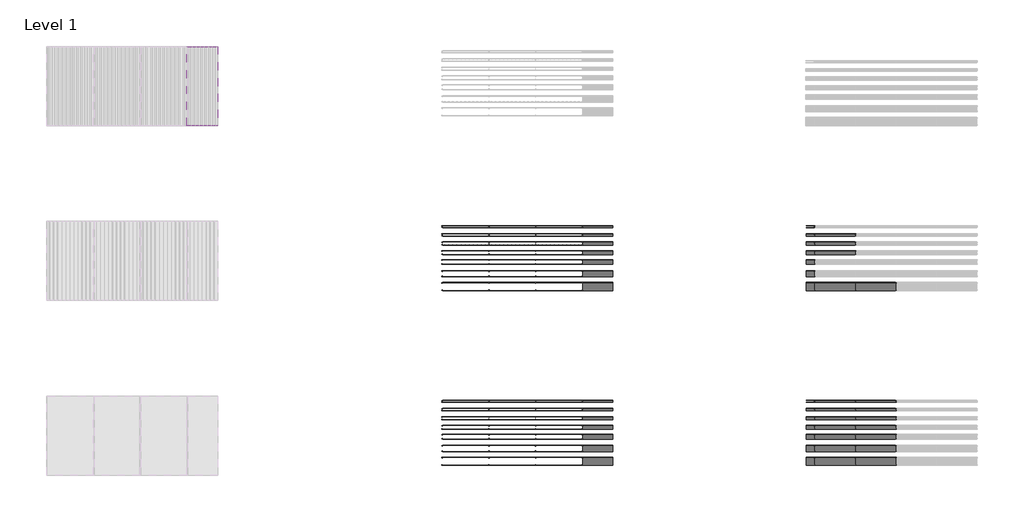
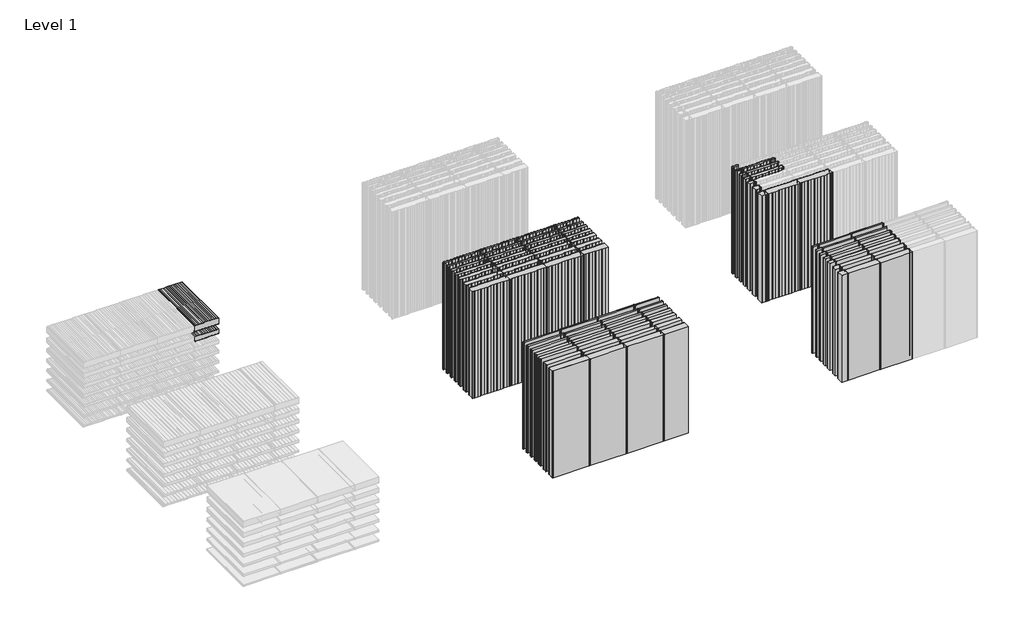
# One storey, part 2 of 4: 91 plates.
"""IFC4 building model written with IfcOpenShell, lengths in millimetres."""

from ifc_helpers import new_model, si_unit, origin, place, context, project, spatial, transform, mapped, element, save
from components import pm1_curtain_panel_standard_profile_565afd56, pm1_curtain_panel_standard_profile_8dcfa809, pm1_curtain_panel_flat_profile_ec2d9a9f, pm1_curtain_panel_flat_profile_6bd34003, pm1_curtain_panel_flat_profile_d00d88be, pm1_curtain_panel_flat_profile_68c07352, pm1_curtain_panel_flat_profile_7617cffb, pm1_curtain_panel_flat_profile_af272a4a, pm1_curtain_panel_flat_profile_9f0cf21e, pm1_curtain_panel_flat_profile_2dd77cdb, pm1_curtain_panel_flat_profile_1df6bcda, pm1_curtain_panel_flat_profile_bbe97bc2, pm1_curtain_panel_flat_profile_77e79c4d, pm1_curtain_panel_flat_profile_9e77dd8b, pm1_curtain_panel_flat_profile_ed04c103, pm1_curtain_panel_flat_profile_f8a9f7f1, pm1_curtain_panel_micro_ribbed_profile_aace55ae, pm1_curtain_panel_micro_ribbed_profile_b0a39715, pm1_curtain_panel_micro_ribbed_profile_3c703dab, pm1_curtain_panel_micro_ribbed_profile_013f0e3a, pm1_curtain_panel_micro_ribbed_profile_b8cf29e3, pm1_curtain_panel_micro_ribbed_profile_9ff300b7, pm1_curtain_panel_micro_ribbed_profile_237f9545, pm1_curtain_panel_micro_ribbed_profile_3a178546, pm1_curtain_panel_micro_ribbed_profile_fbef5924, pm1_curtain_panel_micro_ribbed_profile_521b614f, pm1_curtain_panel_micro_ribbed_profile_49ab79ae, pm1_curtain_panel_micro_ribbed_profile_119ddfce, pm1_curtain_panel_micro_ribbed_profile_efb13df9, pm1_curtain_panel_micro_ribbed_profile_e0073b67, pm1_curtain_panel_micro_ribbed_profile_bbc1dd99, pm1_curtain_panel_micro_ribbed_profile_428cde19, pm1_curtain_panel_micro_ribbed_profile_9ce57156, pm1_curtain_panel_micro_ribbed_profile_27170c41, pm1_curtain_panel_micro_ribbed_profile_c7bb6b2b, pm1_curtain_panel_micro_ribbed_profile_6def71c2, pm1_curtain_panel_micro_ribbed_profile_ae8438e2, pmh_curtain_panel_flat_profile_2aa518ef, pmh_curtain_panel_flat_profile_ee175231, pmh_curtain_panel_flat_profile_bc538edd, pmh_curtain_panel_flat_profile_33157659, pmh_curtain_panel_flat_profile_eaf717ca, pmh_curtain_panel_flat_profile_81161288, pmh_curtain_panel_flat_profile_a8378464, pmh_curtain_panel_flat_profile_6f3a8c2d, pmh_curtain_panel_flat_profile_d1ff0061, pmh_curtain_panel_flat_profile_4aeccdc1, pmh_curtain_panel_flat_profile_b9f61fe7, pmh_curtain_panel_flat_profile_04d264a5, pmh_curtain_panel_flat_profile_7e397283, pmh_curtain_panel_flat_profile_27409d0f, pmh_curtain_panel_micro_ribbed_profile_37a7e260, pmh_curtain_panel_micro_ribbed_profile_525450b6, pmh_curtain_panel_micro_ribbed_profile_d39909f0, pmh_curtain_panel_micro_ribbed_profile_f34e5e84, pmh_curtain_panel_micro_ribbed_profile_1d5e609f, pmh_curtain_panel_micro_ribbed_profile_23aabe01, pmh_curtain_panel_micro_ribbed_profile_e44e9543, pmh_curtain_panel_micro_ribbed_profile_76bfd1a1, pmh_curtain_panel_micro_ribbed_profile_c045a3eb, pmh_curtain_panel_micro_ribbed_profile_85a3d73c, pmh_curtain_panel_micro_ribbed_profile_669abe36

model = new_model("IFC4")

# Units and contexts
model_context = context("Model", 3, world=origin())
ifc_project = project(units=[si_unit("LENGTHUNIT", "METRE", prefix="MILLI")], contexts=[model_context])

# Site, building, storey
site = spatial("IfcSite", under=ifc_project)
building = spatial("IfcBuilding", under=site)
storey = spatial("IfcBuildingStorey", under=building, Name="Level 1", Elevation=0.0)

# Plates
placement = place(None, origin())
pm1_curtain_panel_standard_profile_shape = pm1_curtain_panel_standard_profile_565afd56(model_context)
element("IfcPlate", 1, ObjectType="PM1_Curtain-Panel_ Standard-profile : ACH_PM1_Acoustic-Sectioning-Panel_150M", at=placement, inside=storey, context=model_context, shape_type="MappedRepresentation", body=[
    mapped(pm1_curtain_panel_standard_profile_shape, transform((-17207.9244272, -419.7144508, 1600.0), x_axis=(1.0, 0.0, 0.0), y_axis=(0.0, 0.0, -1.0), z_axis=(0.0, 1.0, 0.0))),
])
pm1_curtain_panel_standard_profile_2_shape = pm1_curtain_panel_standard_profile_8dcfa809(model_context)
element("IfcPlate", 2, ObjectType="PM1_Curtain-Panel_ Standard-profile : ACH_PM1_Acoustic-Sectioning-Panel_200M", at=placement, inside=storey, context=model_context, shape_type="MappedRepresentation", body=[
    mapped(pm1_curtain_panel_standard_profile_2_shape, transform((-17207.9244272, -419.7144508, 1920.0), x_axis=(1.0, 0.0, 0.0), y_axis=(0.0, 0.0, -1.0), z_axis=(0.0, 1.0, 0.0))),
])
pm1_curtain_panel_flat_profile_shape = pm1_curtain_panel_flat_profile_ec2d9a9f(model_context)
element("IfcPlate", 3, ObjectType="PM1_Curtain-Panel_Flat-profile : ACH_PM1_Acoustic-Sectioning-Panel_60M", at=placement, inside=storey, context=model_context, shape_type="MappedRepresentation", body=[
    mapped(pm1_curtain_panel_flat_profile_shape, transform((-10729.4132588, -7379.3131879, 0.0), x_axis=(1.0, 0.0, 0.0), y_axis=(0.0, 1.0, 0.0), z_axis=(0.0, 0.0, 1.0))),
])
element("IfcPlate", 4, ObjectType="PM1_Curtain-Panel_Flat-profile : ACH_PM1_Acoustic-Sectioning-Panel_60M", at=placement, inside=storey, context=model_context, shape_type="MappedRepresentation", body=[
    mapped(pm1_curtain_panel_flat_profile_shape, transform((-9579.4132588, -7379.3131879, 0.0), x_axis=(1.0, 0.0, 0.0), y_axis=(0.0, 1.0, 0.0), z_axis=(0.0, 0.0, 1.0))),
])
element("IfcPlate", 5, ObjectType="PM1_Curtain-Panel_Flat-profile : ACH_PM1_Acoustic-Sectioning-Panel_60M", at=placement, inside=storey, context=model_context, shape_type="MappedRepresentation", body=[
    mapped(pm1_curtain_panel_flat_profile_shape, transform((-8429.4132588, -7379.3131879, 0.0), x_axis=(1.0, 0.0, 0.0), y_axis=(0.0, 1.0, 0.0), z_axis=(0.0, 0.0, 1.0))),
])
pm1_curtain_panel_flat_profile_2_shape = pm1_curtain_panel_flat_profile_6bd34003(model_context)
element("IfcPlate", 6, ObjectType="PM1_Curtain-Panel_Flat-profile : ACH_PM1_Acoustic-Sectioning-Panel_60M", at=placement, inside=storey, context=model_context, shape_type="MappedRepresentation", body=[
    mapped(pm1_curtain_panel_flat_profile_2_shape, transform((-7479.4132588, -7379.3131879, 0.0), x_axis=(1.0, 0.0, 0.0), y_axis=(0.0, 1.0, 0.0), z_axis=(0.0, 0.0, 1.0))),
])
pm1_curtain_panel_flat_profile_3_shape = pm1_curtain_panel_flat_profile_d00d88be(model_context)
element("IfcPlate", 7, ObjectType="PM1_Curtain-Panel_Flat-profile : ACH_PM1_Acoustic-Sectioning-Panel_80M", at=placement, inside=storey, context=model_context, shape_type="MappedRepresentation", body=[
    mapped(pm1_curtain_panel_flat_profile_3_shape, transform((-10729.4132588, -7579.3131879, 0.0), x_axis=(1.0, 0.0, 0.0), y_axis=(0.0, 1.0, 0.0), z_axis=(0.0, 0.0, 1.0))),
])
element("IfcPlate", 8, ObjectType="PM1_Curtain-Panel_Flat-profile : ACH_PM1_Acoustic-Sectioning-Panel_80M", at=placement, inside=storey, context=model_context, shape_type="MappedRepresentation", body=[
    mapped(pm1_curtain_panel_flat_profile_3_shape, transform((-9579.4132588, -7579.3131879, 0.0), x_axis=(1.0, 0.0, 0.0), y_axis=(0.0, 1.0, 0.0), z_axis=(0.0, 0.0, 1.0))),
])
element("IfcPlate", 9, ObjectType="PM1_Curtain-Panel_Flat-profile : ACH_PM1_Acoustic-Sectioning-Panel_80M", at=placement, inside=storey, context=model_context, shape_type="MappedRepresentation", body=[
    mapped(pm1_curtain_panel_flat_profile_3_shape, transform((-8429.4132588, -7579.3131879, 0.0), x_axis=(1.0, 0.0, 0.0), y_axis=(0.0, 1.0, 0.0), z_axis=(0.0, 0.0, 1.0))),
])
pm1_curtain_panel_flat_profile_4_shape = pm1_curtain_panel_flat_profile_68c07352(model_context)
element("IfcPlate", 10, ObjectType="PM1_Curtain-Panel_Flat-profile : ACH_PM1_Acoustic-Sectioning-Panel_80M", at=placement, inside=storey, context=model_context, shape_type="MappedRepresentation", body=[
    mapped(pm1_curtain_panel_flat_profile_4_shape, transform((-7479.4132588, -7579.3131879, 0.0), x_axis=(1.0, 0.0, 0.0), y_axis=(0.0, 1.0, 0.0), z_axis=(0.0, 0.0, 1.0))),
])
pm1_curtain_panel_flat_profile_5_shape = pm1_curtain_panel_flat_profile_7617cffb(model_context)
element("IfcPlate", 11, ObjectType="PM1_Curtain-Panel_Flat-profile : ACH_PM1_Acoustic-Sectioning-Panel_50M", at=placement, inside=storey, context=model_context, shape_type="MappedRepresentation", body=[
    mapped(pm1_curtain_panel_flat_profile_5_shape, transform((-10729.4132588, -7179.3131879, 0.0), x_axis=(1.0, 0.0, 0.0), y_axis=(0.0, 1.0, 0.0), z_axis=(0.0, 0.0, 1.0))),
])
element("IfcPlate", 12, ObjectType="PM1_Curtain-Panel_Flat-profile : ACH_PM1_Acoustic-Sectioning-Panel_50M", at=placement, inside=storey, context=model_context, shape_type="MappedRepresentation", body=[
    mapped(pm1_curtain_panel_flat_profile_5_shape, transform((-9579.4132588, -7179.3131879, 0.0), x_axis=(1.0, 0.0, 0.0), y_axis=(0.0, 1.0, 0.0), z_axis=(0.0, 0.0, 1.0))),
])
element("IfcPlate", 13, ObjectType="PM1_Curtain-Panel_Flat-profile : ACH_PM1_Acoustic-Sectioning-Panel_50M", at=placement, inside=storey, context=model_context, shape_type="MappedRepresentation", body=[
    mapped(pm1_curtain_panel_flat_profile_5_shape, transform((-8429.4132588, -7179.3131879, 0.0), x_axis=(1.0, 0.0, 0.0), y_axis=(0.0, 1.0, 0.0), z_axis=(0.0, 0.0, 1.0))),
])
pm1_curtain_panel_flat_profile_6_shape = pm1_curtain_panel_flat_profile_af272a4a(model_context)
element("IfcPlate", 14, ObjectType="PM1_Curtain-Panel_Flat-profile : ACH_PM1_Acoustic-Sectioning-Panel_50M", at=placement, inside=storey, context=model_context, shape_type="MappedRepresentation", body=[
    mapped(pm1_curtain_panel_flat_profile_6_shape, transform((-7479.4012848, -7179.3131879, 0.0), x_axis=(1.0, 0.0, 0.0), y_axis=(0.0, 1.0, 0.0), z_axis=(0.0, 0.0, 1.0))),
])
pm1_curtain_panel_flat_profile_7_shape = pm1_curtain_panel_flat_profile_9f0cf21e(model_context)
element("IfcPlate", 15, ObjectType="PM1_Curtain-Panel_Flat-profile : ACH_PM1_Acoustic-Sectioning-Panel_100M", at=placement, inside=storey, context=model_context, shape_type="MappedRepresentation", body=[
    mapped(pm1_curtain_panel_flat_profile_7_shape, transform((-10729.4132588, -7795.1131879, 0.0), x_axis=(1.0, 0.0, 0.0), y_axis=(0.0, 1.0, 0.0), z_axis=(0.0, 0.0, 1.0))),
])
element("IfcPlate", 16, ObjectType="PM1_Curtain-Panel_Flat-profile : ACH_PM1_Acoustic-Sectioning-Panel_100M", at=placement, inside=storey, context=model_context, shape_type="MappedRepresentation", body=[
    mapped(pm1_curtain_panel_flat_profile_7_shape, transform((-9579.4132588, -7795.1131879, 0.0), x_axis=(1.0, 0.0, 0.0), y_axis=(0.0, 1.0, 0.0), z_axis=(0.0, 0.0, 1.0))),
])
element("IfcPlate", 17, ObjectType="PM1_Curtain-Panel_Flat-profile : ACH_PM1_Acoustic-Sectioning-Panel_100M", at=placement, inside=storey, context=model_context, shape_type="MappedRepresentation", body=[
    mapped(pm1_curtain_panel_flat_profile_7_shape, transform((-8429.4132588, -7795.1131879, 0.0), x_axis=(1.0, 0.0, 0.0), y_axis=(0.0, 1.0, 0.0), z_axis=(0.0, 0.0, 1.0))),
])
pm1_curtain_panel_flat_profile_8_shape = pm1_curtain_panel_flat_profile_2dd77cdb(model_context)
element("IfcPlate", 18, ObjectType="PM1_Curtain-Panel_Flat-profile : ACH_PM1_Acoustic-Sectioning-Panel_100M", at=placement, inside=storey, context=model_context, shape_type="MappedRepresentation", body=[
    mapped(pm1_curtain_panel_flat_profile_8_shape, transform((-7479.4132588, -7795.1131879, 0.0), x_axis=(1.0, 0.0, 0.0), y_axis=(0.0, 1.0, 0.0), z_axis=(0.0, 0.0, 1.0))),
])
pm1_curtain_panel_flat_profile_9_shape = pm1_curtain_panel_flat_profile_1df6bcda(model_context)
element("IfcPlate", 19, ObjectType="PM1_Curtain-Panel_Flat-profile : ACH_PM1_Acoustic-Sectioning-Panel_120M", at=placement, inside=storey, context=model_context, shape_type="MappedRepresentation", body=[
    mapped(pm1_curtain_panel_flat_profile_9_shape, transform((-10729.4132588, -8015.1131879, 0.0), x_axis=(1.0, 0.0, 0.0), y_axis=(0.0, 1.0, 0.0), z_axis=(0.0, 0.0, 1.0))),
])
element("IfcPlate", 20, ObjectType="PM1_Curtain-Panel_Flat-profile : ACH_PM1_Acoustic-Sectioning-Panel_120M", at=placement, inside=storey, context=model_context, shape_type="MappedRepresentation", body=[
    mapped(pm1_curtain_panel_flat_profile_9_shape, transform((-9579.4132588, -8015.1131879, 0.0), x_axis=(1.0, 0.0, 0.0), y_axis=(0.0, 1.0, 0.0), z_axis=(0.0, 0.0, 1.0))),
])
element("IfcPlate", 21, ObjectType="PM1_Curtain-Panel_Flat-profile : ACH_PM1_Acoustic-Sectioning-Panel_120M", at=placement, inside=storey, context=model_context, shape_type="MappedRepresentation", body=[
    mapped(pm1_curtain_panel_flat_profile_9_shape, transform((-8429.4132588, -8015.1131879, 0.0), x_axis=(1.0, 0.0, 0.0), y_axis=(0.0, 1.0, 0.0), z_axis=(0.0, 0.0, 1.0))),
])
pm1_curtain_panel_flat_profile_10_shape = pm1_curtain_panel_flat_profile_bbe97bc2(model_context)
element("IfcPlate", 22, ObjectType="PM1_Curtain-Panel_Flat-profile : ACH_PM1_Acoustic-Sectioning-Panel_120M", at=placement, inside=storey, context=model_context, shape_type="MappedRepresentation", body=[
    mapped(pm1_curtain_panel_flat_profile_10_shape, transform((-7479.4132588, -8015.1131879, 0.0), x_axis=(1.0, 0.0, 0.0), y_axis=(0.0, 1.0, 0.0), z_axis=(0.0, 0.0, 1.0))),
])
pm1_curtain_panel_flat_profile_11_shape = pm1_curtain_panel_flat_profile_77e79c4d(model_context)
element("IfcPlate", 23, ObjectType="PM1_Curtain-Panel_Flat-profile : ACH_PM1_Acoustic-Sectioning-Panel_150M", at=placement, inside=storey, context=model_context, shape_type="MappedRepresentation", body=[
    mapped(pm1_curtain_panel_flat_profile_11_shape, transform((-10729.4132588, -8290.1131879, 0.0), x_axis=(1.0, 0.0, 0.0), y_axis=(0.0, 1.0, 0.0), z_axis=(0.0, 0.0, 1.0))),
])
element("IfcPlate", 24, ObjectType="PM1_Curtain-Panel_Flat-profile : ACH_PM1_Acoustic-Sectioning-Panel_150M", at=placement, inside=storey, context=model_context, shape_type="MappedRepresentation", body=[
    mapped(pm1_curtain_panel_flat_profile_11_shape, transform((-9579.4132588, -8290.1131879, 0.0), x_axis=(1.0, 0.0, 0.0), y_axis=(0.0, 1.0, 0.0), z_axis=(0.0, 0.0, 1.0))),
])
element("IfcPlate", 25, ObjectType="PM1_Curtain-Panel_Flat-profile : ACH_PM1_Acoustic-Sectioning-Panel_150M", at=placement, inside=storey, context=model_context, shape_type="MappedRepresentation", body=[
    mapped(pm1_curtain_panel_flat_profile_11_shape, transform((-8429.4132588, -8290.1131879, 0.0), x_axis=(1.0, 0.0, 0.0), y_axis=(0.0, 1.0, 0.0), z_axis=(0.0, 0.0, 1.0))),
])
pm1_curtain_panel_flat_profile_12_shape = pm1_curtain_panel_flat_profile_9e77dd8b(model_context)
element("IfcPlate", 26, ObjectType="PM1_Curtain-Panel_Flat-profile : ACH_PM1_Acoustic-Sectioning-Panel_150M", at=placement, inside=storey, context=model_context, shape_type="MappedRepresentation", body=[
    mapped(pm1_curtain_panel_flat_profile_12_shape, transform((-7479.4132588, -8290.1131879, 0.0), x_axis=(1.0, 0.0, 0.0), y_axis=(0.0, 1.0, 0.0), z_axis=(0.0, 0.0, 1.0))),
])
pm1_curtain_panel_flat_profile_13_shape = pm1_curtain_panel_flat_profile_ed04c103(model_context)
element("IfcPlate", 27, ObjectType="PM1_Curtain-Panel_Flat-profile : ACH_PM1_Acoustic-Sectioning-Panel_200M", at=placement, inside=storey, context=model_context, shape_type="MappedRepresentation", body=[
    mapped(pm1_curtain_panel_flat_profile_13_shape, transform((-10729.4132588, -8580.1131879, 0.0), x_axis=(1.0, 0.0, 0.0), y_axis=(0.0, 1.0, 0.0), z_axis=(0.0, 0.0, 1.0))),
])
element("IfcPlate", 28, ObjectType="PM1_Curtain-Panel_Flat-profile : ACH_PM1_Acoustic-Sectioning-Panel_200M", at=placement, inside=storey, context=model_context, shape_type="MappedRepresentation", body=[
    mapped(pm1_curtain_panel_flat_profile_13_shape, transform((-9579.4132588, -8580.1131879, 0.0), x_axis=(1.0, 0.0, 0.0), y_axis=(0.0, 1.0, 0.0), z_axis=(0.0, 0.0, 1.0))),
])
element("IfcPlate", 29, ObjectType="PM1_Curtain-Panel_Flat-profile : ACH_PM1_Acoustic-Sectioning-Panel_200M", at=placement, inside=storey, context=model_context, shape_type="MappedRepresentation", body=[
    mapped(pm1_curtain_panel_flat_profile_13_shape, transform((-8429.4132588, -8580.1131879, 0.0), x_axis=(1.0, 0.0, 0.0), y_axis=(0.0, 1.0, 0.0), z_axis=(0.0, 0.0, 1.0))),
])
pm1_curtain_panel_flat_profile_14_shape = pm1_curtain_panel_flat_profile_f8a9f7f1(model_context)
element("IfcPlate", 30, ObjectType="PM1_Curtain-Panel_Flat-profile : ACH_PM1_Acoustic-Sectioning-Panel_200M", at=placement, inside=storey, context=model_context, shape_type="MappedRepresentation", body=[
    mapped(pm1_curtain_panel_flat_profile_14_shape, transform((-7479.4132588, -8580.1131879, 0.0), x_axis=(1.0, 0.0, 0.0), y_axis=(0.0, 1.0, 0.0), z_axis=(0.0, 0.0, 1.0))),
])
pm1_curtain_panel_micro_ribbed_profile_shape = pm1_curtain_panel_micro_ribbed_profile_aace55ae(model_context)
pm1_curtain_panel_micro_ribbed_profile_2_shape = pm1_curtain_panel_micro_ribbed_profile_b0a39715(model_context)
element("IfcPlate", 31, ObjectType="PM1_Curtain-Panel_Micro-ribbed-profile : ACH_PM1_Acoustic-Sectioning-Panel_60M", at=placement, inside=storey, context=model_context, shape_type="MappedRepresentation", body=[
    mapped(pm1_curtain_panel_micro_ribbed_profile_shape, transform((-10729.4132588, -3079.3131879, 0.0), x_axis=(1.0, 0.0, 0.0), y_axis=(0.0, 1.0, 0.0), z_axis=(0.0, 0.0, 1.0))),
    mapped(pm1_curtain_panel_micro_ribbed_profile_2_shape, transform((-10729.4132588, -3079.3131879, 0.0), x_axis=(1.0, 0.0, 0.0), y_axis=(0.0, 1.0, 0.0), z_axis=(0.0, 0.0, 1.0))),
])
element("IfcPlate", 32, ObjectType="PM1_Curtain-Panel_Micro-ribbed-profile : ACH_PM1_Acoustic-Sectioning-Panel_60M", at=placement, inside=storey, context=model_context, shape_type="MappedRepresentation", body=[
    mapped(pm1_curtain_panel_micro_ribbed_profile_shape, transform((-9579.4132588, -3079.3131879, 0.0), x_axis=(1.0, 0.0, 0.0), y_axis=(0.0, 1.0, 0.0), z_axis=(0.0, 0.0, 1.0))),
    mapped(pm1_curtain_panel_micro_ribbed_profile_2_shape, transform((-9579.4132588, -3079.3131879, 0.0), x_axis=(1.0, 0.0, 0.0), y_axis=(0.0, 1.0, 0.0), z_axis=(0.0, 0.0, 1.0))),
])
element("IfcPlate", 33, ObjectType="PM1_Curtain-Panel_Micro-ribbed-profile : ACH_PM1_Acoustic-Sectioning-Panel_60M", at=placement, inside=storey, context=model_context, shape_type="MappedRepresentation", body=[
    mapped(pm1_curtain_panel_micro_ribbed_profile_shape, transform((-8429.4132588, -3079.3131879, 0.0), x_axis=(1.0, 0.0, 0.0), y_axis=(0.0, 1.0, 0.0), z_axis=(0.0, 0.0, 1.0))),
    mapped(pm1_curtain_panel_micro_ribbed_profile_2_shape, transform((-8429.4132588, -3079.3131879, 0.0), x_axis=(1.0, 0.0, 0.0), y_axis=(0.0, 1.0, 0.0), z_axis=(0.0, 0.0, 1.0))),
])
pm1_curtain_panel_micro_ribbed_profile_3_shape = pm1_curtain_panel_micro_ribbed_profile_3c703dab(model_context)
element("IfcPlate", 34, ObjectType="PM1_Curtain-Panel_Micro-ribbed-profile : ACH_PM1_Acoustic-Sectioning-Panel_60M", at=placement, inside=storey, context=model_context, shape_type="MappedRepresentation", body=[
    mapped(pm1_curtain_panel_micro_ribbed_profile_3_shape, transform((-7479.4132588, -3079.3131879, 0.0), x_axis=(1.0, 0.0, 0.0), y_axis=(0.0, 1.0, 0.0), z_axis=(0.0, 0.0, 1.0))),
])
pm1_curtain_panel_micro_ribbed_profile_4_shape = pm1_curtain_panel_micro_ribbed_profile_013f0e3a(model_context)
pm1_curtain_panel_micro_ribbed_profile_5_shape = pm1_curtain_panel_micro_ribbed_profile_b8cf29e3(model_context)
element("IfcPlate", 35, ObjectType="PM1_Curtain-Panel_Micro-ribbed-profile : ACH_PM1_Acoustic-Sectioning-Panel_80M", at=placement, inside=storey, context=model_context, shape_type="MappedRepresentation", body=[
    mapped(pm1_curtain_panel_micro_ribbed_profile_4_shape, transform((-10729.4132588, -3279.3131879, 0.0), x_axis=(1.0, 0.0, 0.0), y_axis=(0.0, 1.0, 0.0), z_axis=(0.0, 0.0, 1.0))),
    mapped(pm1_curtain_panel_micro_ribbed_profile_5_shape, transform((-10729.4132588, -3279.3131879, 0.0), x_axis=(1.0, 0.0, 0.0), y_axis=(0.0, 1.0, 0.0), z_axis=(0.0, 0.0, 1.0))),
])
element("IfcPlate", 36, ObjectType="PM1_Curtain-Panel_Micro-ribbed-profile : ACH_PM1_Acoustic-Sectioning-Panel_80M", at=placement, inside=storey, context=model_context, shape_type="MappedRepresentation", body=[
    mapped(pm1_curtain_panel_micro_ribbed_profile_4_shape, transform((-9579.4132588, -3279.3131879, 0.0), x_axis=(1.0, 0.0, 0.0), y_axis=(0.0, 1.0, 0.0), z_axis=(0.0, 0.0, 1.0))),
    mapped(pm1_curtain_panel_micro_ribbed_profile_5_shape, transform((-9579.4132588, -3279.3131879, 0.0), x_axis=(1.0, 0.0, 0.0), y_axis=(0.0, 1.0, 0.0), z_axis=(0.0, 0.0, 1.0))),
])
element("IfcPlate", 37, ObjectType="PM1_Curtain-Panel_Micro-ribbed-profile : ACH_PM1_Acoustic-Sectioning-Panel_80M", at=placement, inside=storey, context=model_context, shape_type="MappedRepresentation", body=[
    mapped(pm1_curtain_panel_micro_ribbed_profile_4_shape, transform((-8429.4132588, -3279.3131879, 0.0), x_axis=(1.0, 0.0, 0.0), y_axis=(0.0, 1.0, 0.0), z_axis=(0.0, 0.0, 1.0))),
    mapped(pm1_curtain_panel_micro_ribbed_profile_5_shape, transform((-8429.4132588, -3279.3131879, 0.0), x_axis=(1.0, 0.0, 0.0), y_axis=(0.0, 1.0, 0.0), z_axis=(0.0, 0.0, 1.0))),
])
pm1_curtain_panel_micro_ribbed_profile_6_shape = pm1_curtain_panel_micro_ribbed_profile_9ff300b7(model_context)
element("IfcPlate", 38, ObjectType="PM1_Curtain-Panel_Micro-ribbed-profile : ACH_PM1_Acoustic-Sectioning-Panel_80M", at=placement, inside=storey, context=model_context, shape_type="MappedRepresentation", body=[
    mapped(pm1_curtain_panel_micro_ribbed_profile_6_shape, transform((-7479.4132588, -3279.3131879, 0.0), x_axis=(1.0, 0.0, 0.0), y_axis=(0.0, 1.0, 0.0), z_axis=(0.0, 0.0, 1.0))),
])
pm1_curtain_panel_micro_ribbed_profile_7_shape = pm1_curtain_panel_micro_ribbed_profile_237f9545(model_context)
pm1_curtain_panel_micro_ribbed_profile_8_shape = pm1_curtain_panel_micro_ribbed_profile_3a178546(model_context)
element("IfcPlate", 39, ObjectType="PM1_Curtain-Panel_Micro-ribbed-profile : ACH_PM1_Acoustic-Sectioning-Panel_50M", at=placement, inside=storey, context=model_context, shape_type="MappedRepresentation", body=[
    mapped(pm1_curtain_panel_micro_ribbed_profile_7_shape, transform((-10729.4132588, -2879.3131879, 0.0), x_axis=(1.0, 0.0, 0.0), y_axis=(0.0, 1.0, 0.0), z_axis=(0.0, 0.0, 1.0))),
    mapped(pm1_curtain_panel_micro_ribbed_profile_8_shape, transform((-10729.4132588, -2879.3131879, 0.0), x_axis=(1.0, 0.0, 0.0), y_axis=(0.0, 1.0, 0.0), z_axis=(0.0, 0.0, 1.0))),
])
element("IfcPlate", 40, ObjectType="PM1_Curtain-Panel_Micro-ribbed-profile : ACH_PM1_Acoustic-Sectioning-Panel_50M", at=placement, inside=storey, context=model_context, shape_type="MappedRepresentation", body=[
    mapped(pm1_curtain_panel_micro_ribbed_profile_7_shape, transform((-9579.4132588, -2879.3131879, 0.0), x_axis=(1.0, 0.0, 0.0), y_axis=(0.0, 1.0, 0.0), z_axis=(0.0, 0.0, 1.0))),
    mapped(pm1_curtain_panel_micro_ribbed_profile_8_shape, transform((-9579.4132588, -2879.3131879, 0.0), x_axis=(1.0, 0.0, 0.0), y_axis=(0.0, 1.0, 0.0), z_axis=(0.0, 0.0, 1.0))),
])
element("IfcPlate", 41, ObjectType="PM1_Curtain-Panel_Micro-ribbed-profile : ACH_PM1_Acoustic-Sectioning-Panel_50M", at=placement, inside=storey, context=model_context, shape_type="MappedRepresentation", body=[
    mapped(pm1_curtain_panel_micro_ribbed_profile_7_shape, transform((-8429.4132588, -2879.3131879, 0.0), x_axis=(1.0, 0.0, 0.0), y_axis=(0.0, 1.0, 0.0), z_axis=(0.0, 0.0, 1.0))),
    mapped(pm1_curtain_panel_micro_ribbed_profile_8_shape, transform((-8429.4132588, -2879.3131879, 0.0), x_axis=(1.0, 0.0, 0.0), y_axis=(0.0, 1.0, 0.0), z_axis=(0.0, 0.0, 1.0))),
])
pm1_curtain_panel_micro_ribbed_profile_9_shape = pm1_curtain_panel_micro_ribbed_profile_fbef5924(model_context)
element("IfcPlate", 42, ObjectType="PM1_Curtain-Panel_Micro-ribbed-profile : ACH_PM1_Acoustic-Sectioning-Panel_50M", at=placement, inside=storey, context=model_context, shape_type="MappedRepresentation", body=[
    mapped(pm1_curtain_panel_micro_ribbed_profile_9_shape, transform((-7479.4012848, -2879.3131879, 0.0), x_axis=(1.0, 0.0, 0.0), y_axis=(0.0, 1.0, 0.0), z_axis=(0.0, 0.0, 1.0))),
])
pm1_curtain_panel_micro_ribbed_profile_10_shape = pm1_curtain_panel_micro_ribbed_profile_521b614f(model_context)
pm1_curtain_panel_micro_ribbed_profile_11_shape = pm1_curtain_panel_micro_ribbed_profile_49ab79ae(model_context)
element("IfcPlate", 43, ObjectType="PM1_Curtain-Panel_Micro-ribbed-profile : ACH_PM1_Acoustic-Sectioning-Panel_100M", at=placement, inside=storey, context=model_context, shape_type="MappedRepresentation", body=[
    mapped(pm1_curtain_panel_micro_ribbed_profile_10_shape, transform((-10729.4132588, -3495.1131879, 0.0), x_axis=(1.0, 0.0, 0.0), y_axis=(0.0, 1.0, 0.0), z_axis=(0.0, 0.0, 1.0))),
    mapped(pm1_curtain_panel_micro_ribbed_profile_11_shape, transform((-10729.4132588, -3495.1131879, 0.0), x_axis=(1.0, 0.0, 0.0), y_axis=(0.0, 1.0, 0.0), z_axis=(0.0, 0.0, 1.0))),
])
element("IfcPlate", 44, ObjectType="PM1_Curtain-Panel_Micro-ribbed-profile : ACH_PM1_Acoustic-Sectioning-Panel_100M", at=placement, inside=storey, context=model_context, shape_type="MappedRepresentation", body=[
    mapped(pm1_curtain_panel_micro_ribbed_profile_10_shape, transform((-9579.4132588, -3495.1131879, 0.0), x_axis=(1.0, 0.0, 0.0), y_axis=(0.0, 1.0, 0.0), z_axis=(0.0, 0.0, 1.0))),
    mapped(pm1_curtain_panel_micro_ribbed_profile_11_shape, transform((-9579.4132588, -3495.1131879, 0.0), x_axis=(1.0, 0.0, 0.0), y_axis=(0.0, 1.0, 0.0), z_axis=(0.0, 0.0, 1.0))),
])
element("IfcPlate", 45, ObjectType="PM1_Curtain-Panel_Micro-ribbed-profile : ACH_PM1_Acoustic-Sectioning-Panel_100M", at=placement, inside=storey, context=model_context, shape_type="MappedRepresentation", body=[
    mapped(pm1_curtain_panel_micro_ribbed_profile_10_shape, transform((-8429.4132588, -3495.1131879, 0.0), x_axis=(1.0, 0.0, 0.0), y_axis=(0.0, 1.0, 0.0), z_axis=(0.0, 0.0, 1.0))),
    mapped(pm1_curtain_panel_micro_ribbed_profile_11_shape, transform((-8429.4132588, -3495.1131879, 0.0), x_axis=(1.0, 0.0, 0.0), y_axis=(0.0, 1.0, 0.0), z_axis=(0.0, 0.0, 1.0))),
])
pm1_curtain_panel_micro_ribbed_profile_12_shape = pm1_curtain_panel_micro_ribbed_profile_119ddfce(model_context)
element("IfcPlate", 46, ObjectType="PM1_Curtain-Panel_Micro-ribbed-profile : ACH_PM1_Acoustic-Sectioning-Panel_100M", at=placement, inside=storey, context=model_context, shape_type="MappedRepresentation", body=[
    mapped(pm1_curtain_panel_micro_ribbed_profile_12_shape, transform((-7479.4132588, -3495.1131879, 0.0), x_axis=(1.0, 0.0, 0.0), y_axis=(0.0, 1.0, 0.0), z_axis=(0.0, 0.0, 1.0))),
])
pm1_curtain_panel_micro_ribbed_profile_13_shape = pm1_curtain_panel_micro_ribbed_profile_efb13df9(model_context)
pm1_curtain_panel_micro_ribbed_profile_14_shape = pm1_curtain_panel_micro_ribbed_profile_e0073b67(model_context)
element("IfcPlate", 47, ObjectType="PM1_Curtain-Panel_Micro-ribbed-profile : ACH_PM1_Acoustic-Sectioning-Panel_120M", at=placement, inside=storey, context=model_context, shape_type="MappedRepresentation", body=[
    mapped(pm1_curtain_panel_micro_ribbed_profile_13_shape, transform((-10729.4132588, -3715.1131879, 0.0), x_axis=(1.0, 0.0, 0.0), y_axis=(0.0, 1.0, 0.0), z_axis=(0.0, 0.0, 1.0))),
    mapped(pm1_curtain_panel_micro_ribbed_profile_14_shape, transform((-10729.4132588, -3715.1131879, 0.0), x_axis=(1.0, 0.0, 0.0), y_axis=(0.0, 1.0, 0.0), z_axis=(0.0, 0.0, 1.0))),
])
element("IfcPlate", 48, ObjectType="PM1_Curtain-Panel_Micro-ribbed-profile : ACH_PM1_Acoustic-Sectioning-Panel_120M", at=placement, inside=storey, context=model_context, shape_type="MappedRepresentation", body=[
    mapped(pm1_curtain_panel_micro_ribbed_profile_13_shape, transform((-9579.4132588, -3715.1131879, 0.0), x_axis=(1.0, 0.0, 0.0), y_axis=(0.0, 1.0, 0.0), z_axis=(0.0, 0.0, 1.0))),
    mapped(pm1_curtain_panel_micro_ribbed_profile_14_shape, transform((-9579.4132588, -3715.1131879, 0.0), x_axis=(1.0, 0.0, 0.0), y_axis=(0.0, 1.0, 0.0), z_axis=(0.0, 0.0, 1.0))),
])
element("IfcPlate", 49, ObjectType="PM1_Curtain-Panel_Micro-ribbed-profile : ACH_PM1_Acoustic-Sectioning-Panel_120M", at=placement, inside=storey, context=model_context, shape_type="MappedRepresentation", body=[
    mapped(pm1_curtain_panel_micro_ribbed_profile_13_shape, transform((-8429.4132588, -3715.1131879, 0.0), x_axis=(1.0, 0.0, 0.0), y_axis=(0.0, 1.0, 0.0), z_axis=(0.0, 0.0, 1.0))),
    mapped(pm1_curtain_panel_micro_ribbed_profile_14_shape, transform((-8429.4132588, -3715.1131879, 0.0), x_axis=(1.0, 0.0, 0.0), y_axis=(0.0, 1.0, 0.0), z_axis=(0.0, 0.0, 1.0))),
])
pm1_curtain_panel_micro_ribbed_profile_15_shape = pm1_curtain_panel_micro_ribbed_profile_bbc1dd99(model_context)
element("IfcPlate", 50, ObjectType="PM1_Curtain-Panel_Micro-ribbed-profile : ACH_PM1_Acoustic-Sectioning-Panel_120M", at=placement, inside=storey, context=model_context, shape_type="MappedRepresentation", body=[
    mapped(pm1_curtain_panel_micro_ribbed_profile_15_shape, transform((-7479.4132588, -3715.1131879, 0.0), x_axis=(1.0, 0.0, 0.0), y_axis=(0.0, 1.0, 0.0), z_axis=(0.0, 0.0, 1.0))),
])
pm1_curtain_panel_micro_ribbed_profile_16_shape = pm1_curtain_panel_micro_ribbed_profile_428cde19(model_context)
pm1_curtain_panel_micro_ribbed_profile_17_shape = pm1_curtain_panel_micro_ribbed_profile_9ce57156(model_context)
element("IfcPlate", 51, ObjectType="PM1_Curtain-Panel_Micro-ribbed-profile : ACH_PM1_Acoustic-Sectioning-Panel_150M", at=placement, inside=storey, context=model_context, shape_type="MappedRepresentation", body=[
    mapped(pm1_curtain_panel_micro_ribbed_profile_16_shape, transform((-10729.4132588, -3990.1131879, 0.0), x_axis=(1.0, 0.0, 0.0), y_axis=(0.0, 1.0, 0.0), z_axis=(0.0, 0.0, 1.0))),
    mapped(pm1_curtain_panel_micro_ribbed_profile_17_shape, transform((-10729.4132588, -3990.1131879, 0.0), x_axis=(1.0, 0.0, 0.0), y_axis=(0.0, 1.0, 0.0), z_axis=(0.0, 0.0, 1.0))),
])
element("IfcPlate", 52, ObjectType="PM1_Curtain-Panel_Micro-ribbed-profile : ACH_PM1_Acoustic-Sectioning-Panel_150M", at=placement, inside=storey, context=model_context, shape_type="MappedRepresentation", body=[
    mapped(pm1_curtain_panel_micro_ribbed_profile_16_shape, transform((-9579.4132588, -3990.1131879, 0.0), x_axis=(1.0, 0.0, 0.0), y_axis=(0.0, 1.0, 0.0), z_axis=(0.0, 0.0, 1.0))),
    mapped(pm1_curtain_panel_micro_ribbed_profile_17_shape, transform((-9579.4132588, -3990.1131879, 0.0), x_axis=(1.0, 0.0, 0.0), y_axis=(0.0, 1.0, 0.0), z_axis=(0.0, 0.0, 1.0))),
])
element("IfcPlate", 53, ObjectType="PM1_Curtain-Panel_Micro-ribbed-profile : ACH_PM1_Acoustic-Sectioning-Panel_150M", at=placement, inside=storey, context=model_context, shape_type="MappedRepresentation", body=[
    mapped(pm1_curtain_panel_micro_ribbed_profile_16_shape, transform((-8429.4132588, -3990.1131879, 0.0), x_axis=(1.0, 0.0, 0.0), y_axis=(0.0, 1.0, 0.0), z_axis=(0.0, 0.0, 1.0))),
    mapped(pm1_curtain_panel_micro_ribbed_profile_17_shape, transform((-8429.4132588, -3990.1131879, 0.0), x_axis=(1.0, 0.0, 0.0), y_axis=(0.0, 1.0, 0.0), z_axis=(0.0, 0.0, 1.0))),
])
pm1_curtain_panel_micro_ribbed_profile_18_shape = pm1_curtain_panel_micro_ribbed_profile_27170c41(model_context)
element("IfcPlate", 54, ObjectType="PM1_Curtain-Panel_Micro-ribbed-profile : ACH_PM1_Acoustic-Sectioning-Panel_150M", at=placement, inside=storey, context=model_context, shape_type="MappedRepresentation", body=[
    mapped(pm1_curtain_panel_micro_ribbed_profile_18_shape, transform((-7479.4132588, -3990.1131879, 0.0), x_axis=(1.0, 0.0, 0.0), y_axis=(0.0, 1.0, 0.0), z_axis=(0.0, 0.0, 1.0))),
])
pm1_curtain_panel_micro_ribbed_profile_19_shape = pm1_curtain_panel_micro_ribbed_profile_c7bb6b2b(model_context)
pm1_curtain_panel_micro_ribbed_profile_20_shape = pm1_curtain_panel_micro_ribbed_profile_6def71c2(model_context)
element("IfcPlate", 55, ObjectType="PM1_Curtain-Panel_Micro-ribbed-profile : ACH_PM1_Acoustic-Sectioning-Panel_200M", at=placement, inside=storey, context=model_context, shape_type="MappedRepresentation", body=[
    mapped(pm1_curtain_panel_micro_ribbed_profile_19_shape, transform((-10729.4132588, -4280.1131879, 0.0), x_axis=(1.0, 0.0, 0.0), y_axis=(0.0, 1.0, 0.0), z_axis=(0.0, 0.0, 1.0))),
    mapped(pm1_curtain_panel_micro_ribbed_profile_20_shape, transform((-10729.4132588, -4280.1131879, 0.0), x_axis=(1.0, 0.0, 0.0), y_axis=(0.0, 1.0, 0.0), z_axis=(0.0, 0.0, 1.0))),
])
element("IfcPlate", 56, ObjectType="PM1_Curtain-Panel_Micro-ribbed-profile : ACH_PM1_Acoustic-Sectioning-Panel_200M", at=placement, inside=storey, context=model_context, shape_type="MappedRepresentation", body=[
    mapped(pm1_curtain_panel_micro_ribbed_profile_19_shape, transform((-9579.4132588, -4280.1131879, 0.0), x_axis=(1.0, 0.0, 0.0), y_axis=(0.0, 1.0, 0.0), z_axis=(0.0, 0.0, 1.0))),
    mapped(pm1_curtain_panel_micro_ribbed_profile_20_shape, transform((-9579.4132588, -4280.1131879, 0.0), x_axis=(1.0, 0.0, 0.0), y_axis=(0.0, 1.0, 0.0), z_axis=(0.0, 0.0, 1.0))),
])
element("IfcPlate", 57, ObjectType="PM1_Curtain-Panel_Micro-ribbed-profile : ACH_PM1_Acoustic-Sectioning-Panel_200M", at=placement, inside=storey, context=model_context, shape_type="MappedRepresentation", body=[
    mapped(pm1_curtain_panel_micro_ribbed_profile_19_shape, transform((-8429.4132588, -4280.1131879, 0.0), x_axis=(1.0, 0.0, 0.0), y_axis=(0.0, 1.0, 0.0), z_axis=(0.0, 0.0, 1.0))),
    mapped(pm1_curtain_panel_micro_ribbed_profile_20_shape, transform((-8429.4132588, -4280.1131879, 0.0), x_axis=(1.0, 0.0, 0.0), y_axis=(0.0, 1.0, 0.0), z_axis=(0.0, 0.0, 1.0))),
])
pm1_curtain_panel_micro_ribbed_profile_21_shape = pm1_curtain_panel_micro_ribbed_profile_ae8438e2(model_context)
element("IfcPlate", 58, ObjectType="PM1_Curtain-Panel_Micro-ribbed-profile : ACH_PM1_Acoustic-Sectioning-Panel_200M", at=placement, inside=storey, context=model_context, shape_type="MappedRepresentation", body=[
    mapped(pm1_curtain_panel_micro_ribbed_profile_21_shape, transform((-7479.4132588, -4280.1131879, 0.0), x_axis=(1.0, 0.0, 0.0), y_axis=(0.0, 1.0, 0.0), z_axis=(0.0, 0.0, 1.0))),
])
pmh_curtain_panel_flat_profile_shape = pmh_curtain_panel_flat_profile_2aa518ef(model_context)
element("IfcPlate", 59, ObjectType="PMH_Curtain-Panel_Flat-profile : ACH_PMH_Acoustic-Sectioning-Panel_50M", at=placement, inside=storey, context=model_context, shape_type="MappedRepresentation", body=[
    mapped(pmh_curtain_panel_flat_profile_shape, transform((-646.0567046, -7179.3131879, 0.0), x_axis=(-1.0, 0.0, 0.0), y_axis=(0.0, -1.0, 0.0), z_axis=(0.0, 0.0, 1.0))),
])
element("IfcPlate", 60, ObjectType="PMH_Curtain-Panel_Flat-profile : ACH_PMH_Acoustic-Sectioning-Panel_50M", at=placement, inside=storey, context=model_context, shape_type="MappedRepresentation", body=[
    mapped(pmh_curtain_panel_flat_profile_shape, transform((-1646.0567046, -7179.3131879, 0.0), x_axis=(-1.0, 0.0, 0.0), y_axis=(0.0, -1.0, 0.0), z_axis=(0.0, 0.0, 1.0))),
])
pmh_curtain_panel_flat_profile_2_shape = pmh_curtain_panel_flat_profile_ee175231(model_context)
element("IfcPlate", 61, ObjectType="PMH_Curtain-Panel_Flat-profile : ACH_PMH_Acoustic-Sectioning-Panel_50M", at=placement, inside=storey, context=model_context, shape_type="MappedRepresentation", body=[
    mapped(pmh_curtain_panel_flat_profile_2_shape, transform((-2246.0686785, -7179.3131879, 0.0), x_axis=(-1.0, 0.0, 0.0), y_axis=(0.0, -1.0, 0.0), z_axis=(0.0, 0.0, 1.0))),
])
pmh_curtain_panel_flat_profile_3_shape = pmh_curtain_panel_flat_profile_bc538edd(model_context)
element("IfcPlate", 62, ObjectType="PMH_Curtain-Panel_Flat-profile : ACH_PMH_Acoustic-Sectioning-Panel_60M", at=placement, inside=storey, context=model_context, shape_type="MappedRepresentation", body=[
    mapped(pmh_curtain_panel_flat_profile_3_shape, transform((-646.0567046, -7379.3131879, 0.0), x_axis=(-1.0, 0.0, 0.0), y_axis=(0.0, -1.0, 0.0), z_axis=(0.0, 0.0, 1.0))),
])
element("IfcPlate", 63, ObjectType="PMH_Curtain-Panel_Flat-profile : ACH_PMH_Acoustic-Sectioning-Panel_60M", at=placement, inside=storey, context=model_context, shape_type="MappedRepresentation", body=[
    mapped(pmh_curtain_panel_flat_profile_3_shape, transform((-1646.0567046, -7379.3131879, 0.0), x_axis=(-1.0, 0.0, 0.0), y_axis=(0.0, -1.0, 0.0), z_axis=(0.0, 0.0, 1.0))),
])
pmh_curtain_panel_flat_profile_4_shape = pmh_curtain_panel_flat_profile_33157659(model_context)
element("IfcPlate", 64, ObjectType="PMH_Curtain-Panel_Flat-profile : ACH_PMH_Acoustic-Sectioning-Panel_60M", at=placement, inside=storey, context=model_context, shape_type="MappedRepresentation", body=[
    mapped(pmh_curtain_panel_flat_profile_4_shape, transform((-2246.0567046, -7379.3131879, 0.0), x_axis=(-1.0, 0.0, 0.0), y_axis=(0.0, -1.0, 0.0), z_axis=(0.0, 0.0, 1.0))),
])
pmh_curtain_panel_flat_profile_5_shape = pmh_curtain_panel_flat_profile_eaf717ca(model_context)
element("IfcPlate", 65, ObjectType="PMH_Curtain-Panel_Flat-profile : ACH_PMH_Acoustic-Sectioning-Panel_80M", at=placement, inside=storey, context=model_context, shape_type="MappedRepresentation", body=[
    mapped(pmh_curtain_panel_flat_profile_5_shape, transform((-646.0567046, -7579.3131879, 0.0), x_axis=(-1.0, 0.0, 0.0), y_axis=(0.0, -1.0, 0.0), z_axis=(0.0, 0.0, 1.0))),
])
element("IfcPlate", 66, ObjectType="PMH_Curtain-Panel_Flat-profile : ACH_PMH_Acoustic-Sectioning-Panel_80M", at=placement, inside=storey, context=model_context, shape_type="MappedRepresentation", body=[
    mapped(pmh_curtain_panel_flat_profile_5_shape, transform((-1646.0567046, -7579.3131879, 0.0), x_axis=(-1.0, 0.0, 0.0), y_axis=(0.0, -1.0, 0.0), z_axis=(0.0, 0.0, 1.0))),
])
pmh_curtain_panel_flat_profile_6_shape = pmh_curtain_panel_flat_profile_81161288(model_context)
element("IfcPlate", 67, ObjectType="PMH_Curtain-Panel_Flat-profile : ACH_PMH_Acoustic-Sectioning-Panel_80M", at=placement, inside=storey, context=model_context, shape_type="MappedRepresentation", body=[
    mapped(pmh_curtain_panel_flat_profile_6_shape, transform((-2246.0567046, -7579.3131879, 0.0), x_axis=(-1.0, 0.0, 0.0), y_axis=(0.0, -1.0, 0.0), z_axis=(0.0, 0.0, 1.0))),
])
pmh_curtain_panel_flat_profile_7_shape = pmh_curtain_panel_flat_profile_a8378464(model_context)
element("IfcPlate", 68, ObjectType="PMH_Curtain-Panel_Flat-profile : ACH_PMH_Acoustic-Sectioning-Panel_100M", at=placement, inside=storey, context=model_context, shape_type="MappedRepresentation", body=[
    mapped(pmh_curtain_panel_flat_profile_7_shape, transform((-646.0567046, -7795.1131879, 0.0), x_axis=(-1.0, 0.0, 0.0), y_axis=(0.0, -1.0, 0.0), z_axis=(0.0, 0.0, 1.0))),
])
element("IfcPlate", 69, ObjectType="PMH_Curtain-Panel_Flat-profile : ACH_PMH_Acoustic-Sectioning-Panel_100M", at=placement, inside=storey, context=model_context, shape_type="MappedRepresentation", body=[
    mapped(pmh_curtain_panel_flat_profile_7_shape, transform((-1646.0567046, -7795.1131879, 0.0), x_axis=(-1.0, 0.0, 0.0), y_axis=(0.0, -1.0, 0.0), z_axis=(0.0, 0.0, 1.0))),
])
pmh_curtain_panel_flat_profile_8_shape = pmh_curtain_panel_flat_profile_6f3a8c2d(model_context)
element("IfcPlate", 70, ObjectType="PMH_Curtain-Panel_Flat-profile : ACH_PMH_Acoustic-Sectioning-Panel_100M", at=placement, inside=storey, context=model_context, shape_type="MappedRepresentation", body=[
    mapped(pmh_curtain_panel_flat_profile_8_shape, transform((-2246.0567046, -7795.1131879, 0.0), x_axis=(-1.0, 0.0, 0.0), y_axis=(0.0, -1.0, 0.0), z_axis=(0.0, 0.0, 1.0))),
])
pmh_curtain_panel_flat_profile_9_shape = pmh_curtain_panel_flat_profile_d1ff0061(model_context)
element("IfcPlate", 71, ObjectType="PMH_Curtain-Panel_Flat-profile : ACH_PMH_Acoustic-Sectioning-Panel_120M", at=placement, inside=storey, context=model_context, shape_type="MappedRepresentation", body=[
    mapped(pmh_curtain_panel_flat_profile_9_shape, transform((-646.0567046, -8015.1131879, 0.0), x_axis=(-1.0, 0.0, 0.0), y_axis=(0.0, -1.0, 0.0), z_axis=(0.0, 0.0, 1.0))),
])
element("IfcPlate", 72, ObjectType="PMH_Curtain-Panel_Flat-profile : ACH_PMH_Acoustic-Sectioning-Panel_120M", at=placement, inside=storey, context=model_context, shape_type="MappedRepresentation", body=[
    mapped(pmh_curtain_panel_flat_profile_9_shape, transform((-1646.0567046, -8015.1131879, 0.0), x_axis=(-1.0, 0.0, 0.0), y_axis=(0.0, -1.0, 0.0), z_axis=(0.0, 0.0, 1.0))),
])
pmh_curtain_panel_flat_profile_10_shape = pmh_curtain_panel_flat_profile_4aeccdc1(model_context)
element("IfcPlate", 73, ObjectType="PMH_Curtain-Panel_Flat-profile : ACH_PMH_Acoustic-Sectioning-Panel_120M", at=placement, inside=storey, context=model_context, shape_type="MappedRepresentation", body=[
    mapped(pmh_curtain_panel_flat_profile_10_shape, transform((-2246.0567046, -8015.1131879, 0.0), x_axis=(-1.0, 0.0, 0.0), y_axis=(0.0, -1.0, 0.0), z_axis=(0.0, 0.0, 1.0))),
])
pmh_curtain_panel_flat_profile_11_shape = pmh_curtain_panel_flat_profile_b9f61fe7(model_context)
element("IfcPlate", 74, ObjectType="PMH_Curtain-Panel_Flat-profile : ACH_PMH_Acoustic-Sectioning-Panel_150M", at=placement, inside=storey, context=model_context, shape_type="MappedRepresentation", body=[
    mapped(pmh_curtain_panel_flat_profile_11_shape, transform((-646.0567046, -8290.1131879, 0.0), x_axis=(-1.0, 0.0, 0.0), y_axis=(0.0, -1.0, 0.0), z_axis=(0.0, 0.0, 1.0))),
])
element("IfcPlate", 75, ObjectType="PMH_Curtain-Panel_Flat-profile : ACH_PMH_Acoustic-Sectioning-Panel_150M", at=placement, inside=storey, context=model_context, shape_type="MappedRepresentation", body=[
    mapped(pmh_curtain_panel_flat_profile_11_shape, transform((-1646.0567046, -8290.1131879, 0.0), x_axis=(-1.0, 0.0, 0.0), y_axis=(0.0, -1.0, 0.0), z_axis=(0.0, 0.0, 1.0))),
])
pmh_curtain_panel_flat_profile_12_shape = pmh_curtain_panel_flat_profile_04d264a5(model_context)
element("IfcPlate", 76, ObjectType="PMH_Curtain-Panel_Flat-profile : ACH_PMH_Acoustic-Sectioning-Panel_150M", at=placement, inside=storey, context=model_context, shape_type="MappedRepresentation", body=[
    mapped(pmh_curtain_panel_flat_profile_12_shape, transform((-2246.0567046, -8290.1131879, 0.0), x_axis=(-1.0, 0.0, 0.0), y_axis=(0.0, -1.0, 0.0), z_axis=(0.0, 0.0, 1.0))),
])
pmh_curtain_panel_flat_profile_13_shape = pmh_curtain_panel_flat_profile_7e397283(model_context)
element("IfcPlate", 77, ObjectType="PMH_Curtain-Panel_Flat-profile : ACH_PMH_Acoustic-Sectioning-Panel_200M", at=placement, inside=storey, context=model_context, shape_type="MappedRepresentation", body=[
    mapped(pmh_curtain_panel_flat_profile_13_shape, transform((-646.0567046, -8580.1131879, 0.0), x_axis=(-1.0, 0.0, 0.0), y_axis=(0.0, -1.0, 0.0), z_axis=(0.0, 0.0, 1.0))),
])
element("IfcPlate", 78, ObjectType="PMH_Curtain-Panel_Flat-profile : ACH_PMH_Acoustic-Sectioning-Panel_200M", at=placement, inside=storey, context=model_context, shape_type="MappedRepresentation", body=[
    mapped(pmh_curtain_panel_flat_profile_13_shape, transform((-1646.0567046, -8580.1131879, 0.0), x_axis=(-1.0, 0.0, 0.0), y_axis=(0.0, -1.0, 0.0), z_axis=(0.0, 0.0, 1.0))),
])
pmh_curtain_panel_flat_profile_14_shape = pmh_curtain_panel_flat_profile_27409d0f(model_context)
element("IfcPlate", 79, ObjectType="PMH_Curtain-Panel_Flat-profile : ACH_PMH_Acoustic-Sectioning-Panel_200M", at=placement, inside=storey, context=model_context, shape_type="MappedRepresentation", body=[
    mapped(pmh_curtain_panel_flat_profile_14_shape, transform((-2246.0567046, -8580.1131879, 0.0), x_axis=(-1.0, 0.0, 0.0), y_axis=(0.0, -1.0, 0.0), z_axis=(0.0, 0.0, 1.0))),
])
pmh_curtain_panel_micro_ribbed_profile_shape = pmh_curtain_panel_micro_ribbed_profile_37a7e260(model_context)
element("IfcPlate", 80, ObjectType="PMH_Curtain-Panel_Micro-ribbed-profile : ACH_PMH_Acoustic-Sectioning-Panel_60M", at=placement, inside=storey, context=model_context, shape_type="MappedRepresentation", body=[
    mapped(pmh_curtain_panel_micro_ribbed_profile_shape, transform((-1646.0567046, -3079.3131879, 0.0), x_axis=(-1.0, 0.0, 0.0), y_axis=(0.0, -1.0, 0.0), z_axis=(0.0, 0.0, 1.0))),
])
pmh_curtain_panel_micro_ribbed_profile_2_shape = pmh_curtain_panel_micro_ribbed_profile_525450b6(model_context)
element("IfcPlate", 81, ObjectType="PMH_Curtain-Panel_Micro-ribbed-profile : ACH_PMH_Acoustic-Sectioning-Panel_60M", at=placement, inside=storey, context=model_context, shape_type="MappedRepresentation", body=[
    mapped(pmh_curtain_panel_micro_ribbed_profile_2_shape, transform((-2246.0567046, -3079.3131879, 0.0), x_axis=(-1.0, 0.0, 0.0), y_axis=(0.0, -1.0, 0.0), z_axis=(0.0, 0.0, 1.0))),
])
pmh_curtain_panel_micro_ribbed_profile_3_shape = pmh_curtain_panel_micro_ribbed_profile_d39909f0(model_context)
element("IfcPlate", 82, ObjectType="PMH_Curtain-Panel_Micro-ribbed-profile : ACH_PMH_Acoustic-Sectioning-Panel_80M", at=placement, inside=storey, context=model_context, shape_type="MappedRepresentation", body=[
    mapped(pmh_curtain_panel_micro_ribbed_profile_3_shape, transform((-1646.0567046, -3279.3131879, 0.0), x_axis=(-1.0, 0.0, 0.0), y_axis=(0.0, -1.0, 0.0), z_axis=(0.0, 0.0, 1.0))),
])
pmh_curtain_panel_micro_ribbed_profile_4_shape = pmh_curtain_panel_micro_ribbed_profile_f34e5e84(model_context)
element("IfcPlate", 83, ObjectType="PMH_Curtain-Panel_Micro-ribbed-profile : ACH_PMH_Acoustic-Sectioning-Panel_80M", at=placement, inside=storey, context=model_context, shape_type="MappedRepresentation", body=[
    mapped(pmh_curtain_panel_micro_ribbed_profile_4_shape, transform((-2246.0567046, -3279.3131879, 0.0), x_axis=(-1.0, 0.0, 0.0), y_axis=(0.0, -1.0, 0.0), z_axis=(0.0, 0.0, 1.0))),
])
pmh_curtain_panel_micro_ribbed_profile_5_shape = pmh_curtain_panel_micro_ribbed_profile_1d5e609f(model_context)
element("IfcPlate", 84, ObjectType="PMH_Curtain-Panel_Micro-ribbed-profile : ACH_PMH_Acoustic-Sectioning-Panel_50M", at=placement, inside=storey, context=model_context, shape_type="MappedRepresentation", body=[
    mapped(pmh_curtain_panel_micro_ribbed_profile_5_shape, transform((-2246.0686785, -2879.3131879, 0.0), x_axis=(-1.0, 0.0, 0.0), y_axis=(0.0, -1.0, 0.0), z_axis=(0.0, 0.0, 1.0))),
])
pmh_curtain_panel_micro_ribbed_profile_6_shape = pmh_curtain_panel_micro_ribbed_profile_23aabe01(model_context)
element("IfcPlate", 85, ObjectType="PMH_Curtain-Panel_Micro-ribbed-profile : ACH_PMH_Acoustic-Sectioning-Panel_100M", at=placement, inside=storey, context=model_context, shape_type="MappedRepresentation", body=[
    mapped(pmh_curtain_panel_micro_ribbed_profile_6_shape, transform((-1646.0567046, -3495.1131879, 0.0), x_axis=(-1.0, 0.0, 0.0), y_axis=(0.0, -1.0, 0.0), z_axis=(0.0, 0.0, 1.0))),
])
pmh_curtain_panel_micro_ribbed_profile_7_shape = pmh_curtain_panel_micro_ribbed_profile_e44e9543(model_context)
element("IfcPlate", 86, ObjectType="PMH_Curtain-Panel_Micro-ribbed-profile : ACH_PMH_Acoustic-Sectioning-Panel_100M", at=placement, inside=storey, context=model_context, shape_type="MappedRepresentation", body=[
    mapped(pmh_curtain_panel_micro_ribbed_profile_7_shape, transform((-2246.0567046, -3495.1131879, 0.0), x_axis=(-1.0, 0.0, 0.0), y_axis=(0.0, -1.0, 0.0), z_axis=(0.0, 0.0, 1.0))),
])
pmh_curtain_panel_micro_ribbed_profile_8_shape = pmh_curtain_panel_micro_ribbed_profile_76bfd1a1(model_context)
element("IfcPlate", 87, ObjectType="PMH_Curtain-Panel_Micro-ribbed-profile : ACH_PMH_Acoustic-Sectioning-Panel_120M", at=placement, inside=storey, context=model_context, shape_type="MappedRepresentation", body=[
    mapped(pmh_curtain_panel_micro_ribbed_profile_8_shape, transform((-2246.0567046, -3715.1131879, 0.0), x_axis=(-1.0, 0.0, 0.0), y_axis=(0.0, -1.0, 0.0), z_axis=(0.0, 0.0, 1.0))),
])
pmh_curtain_panel_micro_ribbed_profile_9_shape = pmh_curtain_panel_micro_ribbed_profile_c045a3eb(model_context)
element("IfcPlate", 88, ObjectType="PMH_Curtain-Panel_Micro-ribbed-profile : ACH_PMH_Acoustic-Sectioning-Panel_150M", at=placement, inside=storey, context=model_context, shape_type="MappedRepresentation", body=[
    mapped(pmh_curtain_panel_micro_ribbed_profile_9_shape, transform((-2246.0567046, -3990.1131879, 0.0), x_axis=(-1.0, 0.0, 0.0), y_axis=(0.0, -1.0, 0.0), z_axis=(0.0, 0.0, 1.0))),
])
pmh_curtain_panel_micro_ribbed_profile_10_shape = pmh_curtain_panel_micro_ribbed_profile_85a3d73c(model_context)
element("IfcPlate", 89, ObjectType="PMH_Curtain-Panel_Micro-ribbed-profile : ACH_PMH_Acoustic-Sectioning-Panel_200M", at=placement, inside=storey, context=model_context, shape_type="MappedRepresentation", body=[
    mapped(pmh_curtain_panel_micro_ribbed_profile_10_shape, transform((-646.0567046, -4280.1131879, 0.0), x_axis=(-1.0, 0.0, 0.0), y_axis=(0.0, -1.0, 0.0), z_axis=(0.0, 0.0, 1.0))),
])
element("IfcPlate", 90, ObjectType="PMH_Curtain-Panel_Micro-ribbed-profile : ACH_PMH_Acoustic-Sectioning-Panel_200M", at=placement, inside=storey, context=model_context, shape_type="MappedRepresentation", body=[
    mapped(pmh_curtain_panel_micro_ribbed_profile_10_shape, transform((-1646.0567046, -4280.1131879, 0.0), x_axis=(-1.0, 0.0, 0.0), y_axis=(0.0, -1.0, 0.0), z_axis=(0.0, 0.0, 1.0))),
])
pmh_curtain_panel_micro_ribbed_profile_11_shape = pmh_curtain_panel_micro_ribbed_profile_669abe36(model_context)
element("IfcPlate", 91, ObjectType="PMH_Curtain-Panel_Micro-ribbed-profile : ACH_PMH_Acoustic-Sectioning-Panel_200M", at=placement, inside=storey, context=model_context, shape_type="MappedRepresentation", body=[
    mapped(pmh_curtain_panel_micro_ribbed_profile_11_shape, transform((-2246.0567046, -4280.1131879, 0.0), x_axis=(-1.0, 0.0, 0.0), y_axis=(0.0, -1.0, 0.0), z_axis=(0.0, 0.0, 1.0))),
])

save(model, "model.ifc")
